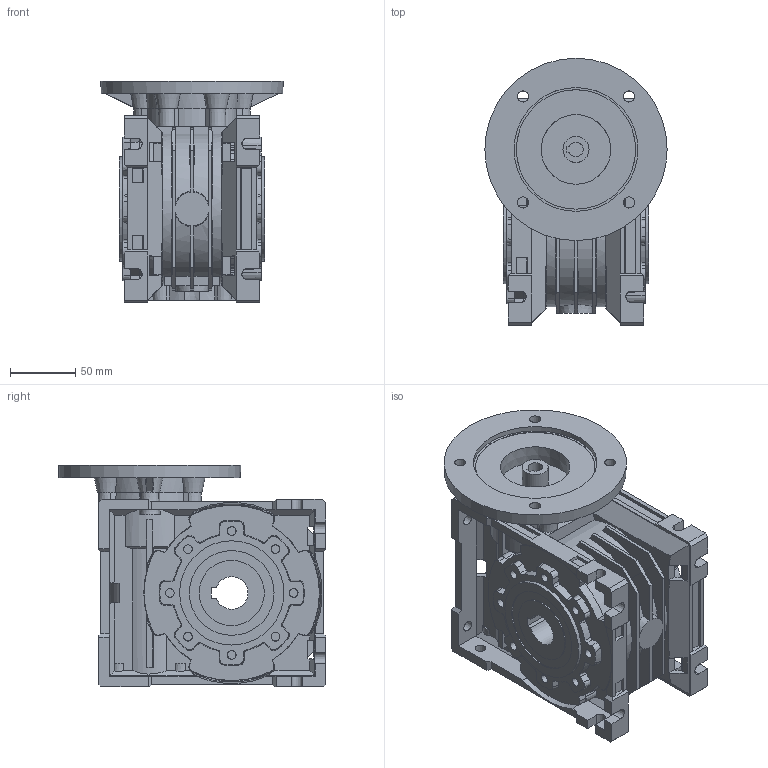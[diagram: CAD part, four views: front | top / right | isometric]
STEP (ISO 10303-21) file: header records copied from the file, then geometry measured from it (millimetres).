
FILE_DESCRIPTION( ( 'Unknown' ), '1' );
FILE_NAME( 'E:/services/configuratordownloads/customers/transtecno/cm/download/C4A26A164074E328106226B3CF315D33/STEP/C4A26A164074E328106226B3CF315D33.3d.stp', 'Unknown', ( 'Unknown' ), ( 'Unknown' ), 'PSStep 10.1', 'Unknown', ' ' );
FILE_SCHEMA( ( 'AUTOMOTIVE_DESIGN { 1 0 10303 214 1 1 1 1 }' ) );
Length unit declared in the file: millimetre
Products named in the file (1): c2dc81e1-b1e8-4eff-bf31-d82d28673ba9
Bounding box: 139.95 x 204.97 x 170 mm (x, y, z)
Volume: 1812234 mm3; surface area: 252139.2 mm2
Topology: 1 solids, 13 shells, 944 faces, 2615 edges, 1723 vertices
Faces by surface type: plane 637, cone 222, bspline 56, cylinder 29
Full cylindrical faces by diameter (mm): 20 x2, 50 x2, 62 x1, 65 x1, 65.1 x1, 80 x2, 95 x1
Entity records: 41962 total; most frequent: CARTESIAN_POINT 11237, ORIENTED_EDGE 5064, DIRECTION 4444, EDGE_CURVE 2532, VERTEX_POINT 1691, AXIS2_PLACEMENT_3D 1520, LINE 1404, VECTOR 1404
